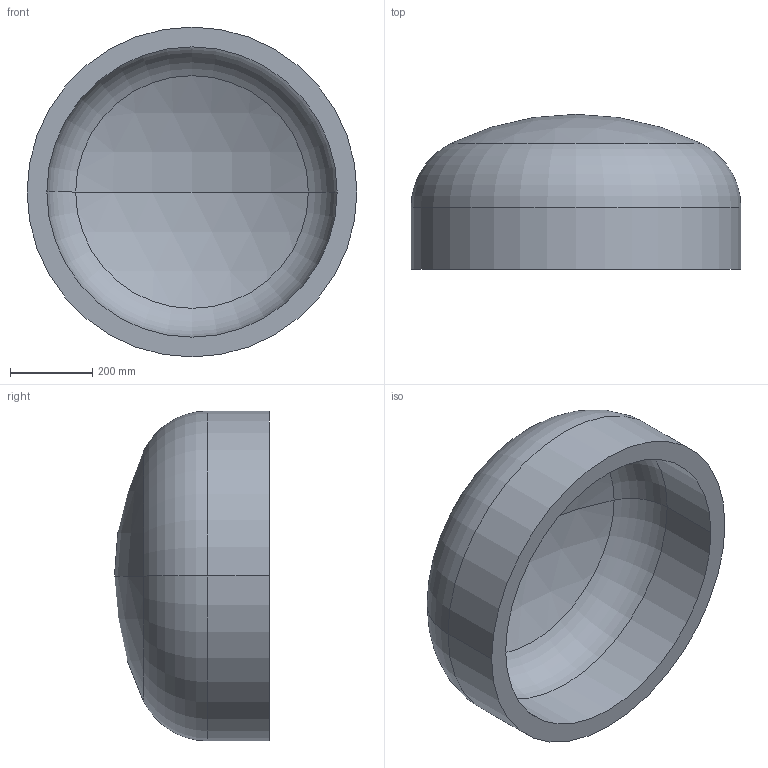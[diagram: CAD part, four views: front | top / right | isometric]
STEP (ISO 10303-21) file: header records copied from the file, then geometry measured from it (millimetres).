
FILE_DESCRIPTION (( 'STEP AP203' ), '1' );
FILE_NAME ('DIN 28013 Korbbogenform_-_Boden DIN 28013 - 800 x 150 - I - s=48.step', '2016-07-01T08:18:06', ( '' ), ( '' ), 'SwSTEP 2.0', 'SolidWorks 2013', '' );
FILE_SCHEMA (( 'CONFIG_CONTROL_DESIGN' ));
Length unit declared in the file: millimetre
Products named in the file (1): DIN 28013 Korbbogenform_-_Boden DIN 28013 - 800 x 150 - I - s=48
Bounding box: 800 x 375.73 x 800 mm (x, y, z)
Volume: 48058940.3 mm3; surface area: 2120679.9 mm2
Topology: 1 solids, 1 shells, 13 faces, 24 edges, 14 vertices
Faces by surface type: torus 4, cylinder 4, sphere 4, plane 1
Entity records: 407 total; most frequent: DIRECTION 72, CARTESIAN_POINT 52, ORIENTED_EDGE 48, AXIS2_PLACEMENT_3D 34, EDGE_CURVE 24, CIRCLE 20, EDGE_LOOP 14, VERTEX_POINT 14
